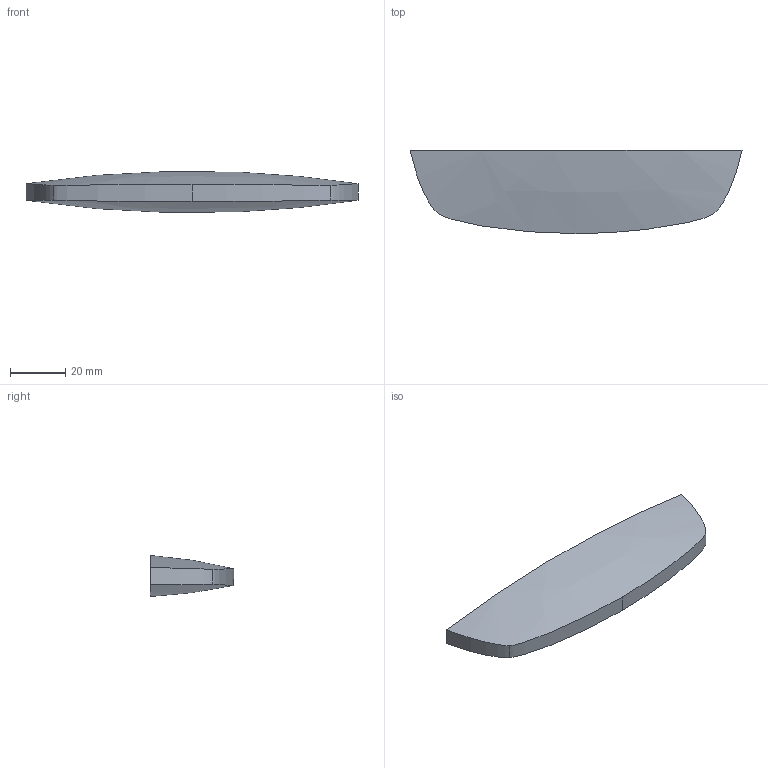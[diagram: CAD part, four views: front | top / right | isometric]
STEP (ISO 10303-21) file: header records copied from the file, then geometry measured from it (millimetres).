
FILE_DESCRIPTION(('Open CASCADE Model'),'2;1');
FILE_NAME('Open CASCADE Shape Model','2026-10-14T17:01:32',('Author'),( 'Open CASCADE'),'Open CASCADE STEP processor 7.8','Open CASCADE 7.8' ,'Unknown');
FILE_SCHEMA(('AUTOMOTIVE_DESIGN { 1 0 10303 214 1 1 1 1 }'));
Length unit declared in the file: millimetre
Products named in the file (1): Open CASCADE STEP translator 7.8 5
Bounding box: 120 x 30.13 x 14.81 mm (x, y, z)
Volume: 30060.9 mm3; surface area: 8536.9 mm2
Topology: 1 solids, 1 shells, 16 faces, 39 edges, 26 vertices
Faces by surface type: bspline 15, cylinder 1
Entity records: 3119 total; most frequent: CARTESIAN_POINT 2534, B_SPLINE_CURVE_WITH_KNOTS 91, ORIENTED_EDGE 78, PCURVE 78, DEFINITIONAL_REPRESENTATION 78, EDGE_CURVE 39, SURFACE_CURVE 39, DIRECTION 28
